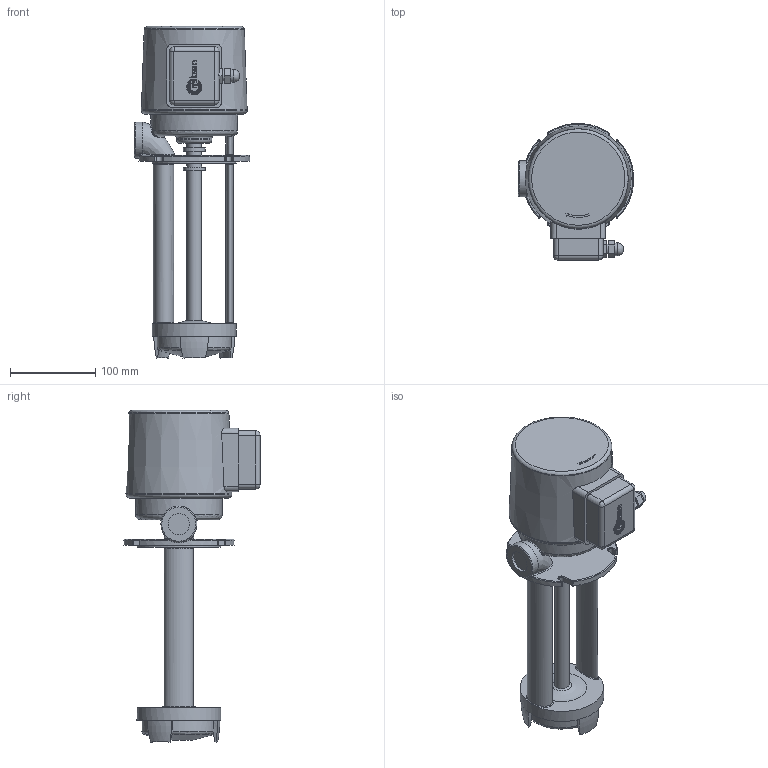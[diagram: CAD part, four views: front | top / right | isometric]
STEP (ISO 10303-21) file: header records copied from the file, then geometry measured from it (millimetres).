
FILE_DESCRIPTION(/* description */ ('Unknown'),/* implementation_level */ '2;1');
FILE_NAME(/* name */ 'CP22',/* time_stamp */ '2025-05-30T09:22:32+03:00',/* author */ ('Unknown'),/* organization */ ('Unknown'),/* preprocessor_version */ 'ST-DEVELOPER v16.7',/* originating_system */ 'DEX',/* authorisation */ $);
FILE_SCHEMA (('AUTOMOTIVE_DESIGN {1 0 10303 214 3 1 1}'));
Length unit declared in the file: millimetre
Products named in the file (1): CP22
Bounding box: 134.76 x 160.28 x 388.49 mm (x, y, z)
Volume: 2142149.3 mm3; surface area: 180052.6 mm2
Topology: 1 solids, 1 shells, 285 faces, 710 edges, 443 vertices
Faces by surface type: bspline 91, plane 80, cylinder 71, torus 30, sphere 8, cone 5
Full cylindrical faces by diameter (mm): 12 x1, 15 x1, 17 x4, 25 x1, 25.386 x2, 41.386 x1, 42 x1, 98 x2, 101.386 x1
Entity records: 12082 total; most frequent: CARTESIAN_POINT 6094, ORIENTED_EDGE 1300, DIRECTION 1028, EDGE_CURVE 650, VERTEX_POINT 429, AXIS2_PLACEMENT_3D 390, EDGE_LOOP 355, FACE_BOUND 355
